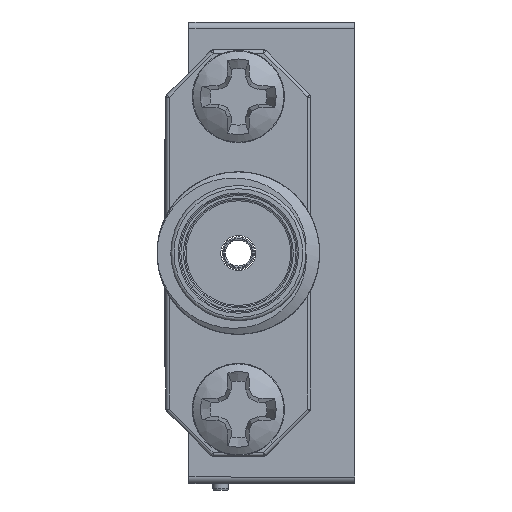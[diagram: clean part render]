
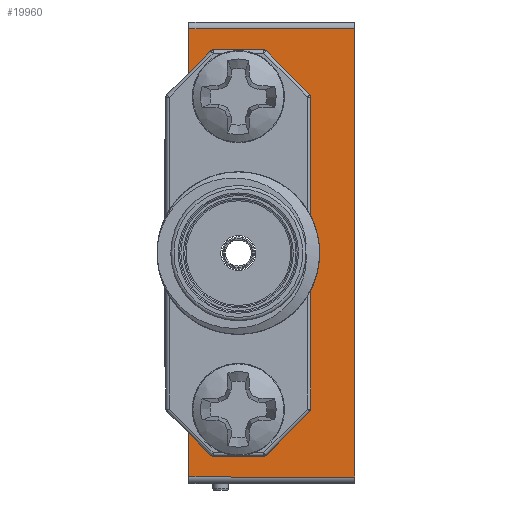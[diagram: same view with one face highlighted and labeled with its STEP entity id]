
A CAD part, left-side view. The second image highlights one B-rep face of the part: STEP entity #19960.
In plain terms, the highlighted planar face has unit normal (-1, 0, 0).
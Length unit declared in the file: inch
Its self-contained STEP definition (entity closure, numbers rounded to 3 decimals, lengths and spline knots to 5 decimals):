
#1995 = DIRECTION ( 'NONE',  ( 0., 0., 1. ) ) ;
#2442 = VERTEX_POINT ( 'NONE', #17266 ) ;
#3398 = CARTESIAN_POINT ( 'NONE',  ( -0.54, 0., -0.345 ) ) ;
#3864 = LINE ( 'NONE', #9950, #10174 ) ;
#4162 = ORIENTED_EDGE ( 'NONE', *, *, #24333, .F. ) ;
#4305 = CARTESIAN_POINT ( 'NONE',  ( -0.54, 0.107, -0.182 ) ) ;
#4555 = VERTEX_POINT ( 'NONE', #29905 ) ;
#5093 = ORIENTED_EDGE ( 'NONE', *, *, #40317, .T. ) ;
#5576 = CARTESIAN_POINT ( 'NONE',  ( -0.54, 0., -0.355 ) ) ;
#5579 = CARTESIAN_POINT ( 'NONE',  ( -0.54, 0.179, -0.241 ) ) ;
#6230 = ORIENTED_EDGE ( 'NONE', *, *, #35286, .T. ) ;
#6318 = VERTEX_POINT ( 'NONE', #29969 ) ;
#6325 = AXIS2_PLACEMENT_3D ( 'NONE', #28909, #16345, #6795 ) ;
#6747 = VERTEX_POINT ( 'NONE', #13571 ) ;
#6795 = DIRECTION ( 'NONE',  ( 0., 0., -1. ) ) ;
#7552 = VECTOR ( 'NONE', #24067, 39.37008 ) ;
#8451 = DIRECTION ( 'NONE',  ( -1., 0., 0. ) ) ;
#8755 = CARTESIAN_POINT ( 'NONE',  ( -0.54, 0.179, -0.1885 ) ) ;
#9507 = FACE_OUTER_BOUND ( 'NONE', #35837, .T. ) ;
#9950 = CARTESIAN_POINT ( 'NONE',  ( -0.54, 0.107, 0.182 ) ) ;
#10174 = VECTOR ( 'NONE', #25782, 39.37008 ) ;
#10954 = DIRECTION ( 'NONE',  ( 0., 0., 1. ) ) ;
#11659 = LINE ( 'NONE', #12075, #14379 ) ;
#11878 = CARTESIAN_POINT ( 'NONE',  ( -0.54, 0.255, 0.182 ) ) ;
#12075 = CARTESIAN_POINT ( 'NONE',  ( -0.54, 0.255, 0.345 ) ) ;
#12218 = LINE ( 'NONE', #37732, #22178 ) ;
#12578 = AXIS2_PLACEMENT_3D ( 'NONE', #5579, #38180, #28533 ) ;
#12599 = ORIENTED_EDGE ( 'NONE', *, *, #40155, .F. ) ;
#12641 = DIRECTION ( 'NONE',  ( 0., -1., 0. ) ) ;
#12876 = VECTOR ( 'NONE', #1995, 39.37008 ) ;
#13495 = DIRECTION ( 'NONE',  ( 0., 1., 0. ) ) ;
#13571 = CARTESIAN_POINT ( 'NONE',  ( -0.54, 0., 0.345 ) ) ;
#14379 = VECTOR ( 'NONE', #34234, 39.37008 ) ;
#15521 = ORIENTED_EDGE ( 'NONE', *, *, #19020, .F. ) ;
#15841 = CARTESIAN_POINT ( 'NONE',  ( -0.54, 0.107, -0.182 ) ) ;
#15902 = EDGE_LOOP ( 'NONE', ( #21140 ) ) ;
#16345 = DIRECTION ( 'NONE',  ( 1., 0., 0. ) ) ;
#17001 = LINE ( 'NONE', #4305, #17562 ) ;
#17266 = CARTESIAN_POINT ( 'NONE',  ( -0.54, 0.255, -0.345 ) ) ;
#17536 = VECTOR ( 'NONE', #25584, 39.37008 ) ;
#17562 = VECTOR ( 'NONE', #13495, 39.37008 ) ;
#19020 = EDGE_CURVE ( 'NONE', #4555, #24905, #24928, .T. ) ;
#19221 = ORIENTED_EDGE ( 'NONE', *, *, #35467, .F. ) ;
#19464 = AXIS2_PLACEMENT_3D ( 'NONE', #24284, #8451, #10954 ) ;
#19574 = EDGE_CURVE ( 'NONE', #6747, #6318, #11659, .T. ) ;
#19960 = ADVANCED_FACE ( 'NONE', ( #35207, #37515, #9507 ), #22202, .F. ) ;
#21140 = ORIENTED_EDGE ( 'NONE', *, *, #28379, .F. ) ;
#22178 = VECTOR ( 'NONE', #12641, 39.37008 ) ;
#22202 = PLANE ( 'NONE',  #6325 ) ;
#24067 = DIRECTION ( 'NONE',  ( 0., 0., 1. ) ) ;
#24139 = LINE ( 'NONE', #24350, #12876 ) ;
#24284 = CARTESIAN_POINT ( 'NONE',  ( -0.54, 0.179, 0.24 ) ) ;
#24333 = EDGE_CURVE ( 'NONE', #28445, #28445, #36193, .T. ) ;
#24350 = CARTESIAN_POINT ( 'NONE',  ( -0.54, 0.255, -0.355 ) ) ;
#24905 = VERTEX_POINT ( 'NONE', #11878 ) ;
#24928 = LINE ( 'NONE', #37733, #39093 ) ;
#25584 = DIRECTION ( 'NONE',  ( 0., 0., 1. ) ) ;
#25782 = DIRECTION ( 'NONE',  ( 0., 0., 1. ) ) ;
#26533 = EDGE_CURVE ( 'NONE', #29344, #37265, #17001, .T. ) ;
#28097 = CARTESIAN_POINT ( 'NONE',  ( -0.54, 0.255, -0.182 ) ) ;
#28379 = EDGE_CURVE ( 'NONE', #39937, #39937, #35274, .T. ) ;
#28445 = VERTEX_POINT ( 'NONE', #41270 ) ;
#28533 = DIRECTION ( 'NONE',  ( 0., 0., 1. ) ) ;
#28909 = CARTESIAN_POINT ( 'NONE',  ( -0.54, 0.255, -0.355 ) ) ;
#29344 = VERTEX_POINT ( 'NONE', #15841 ) ;
#29905 = CARTESIAN_POINT ( 'NONE',  ( -0.54, 0.107, 0.182 ) ) ;
#29969 = CARTESIAN_POINT ( 'NONE',  ( -0.54, 0.255, 0.345 ) ) ;
#30365 = CARTESIAN_POINT ( 'NONE',  ( -0.54, 0.255, -0.355 ) ) ;
#31877 = DIRECTION ( 'NONE',  ( 0., 1., 0. ) ) ;
#32104 = ORIENTED_EDGE ( 'NONE', *, *, #19574, .T. ) ;
#33041 = VERTEX_POINT ( 'NONE', #3398 ) ;
#34234 = DIRECTION ( 'NONE',  ( 0., 1., 0. ) ) ;
#34417 = LINE ( 'NONE', #5576, #17536 ) ;
#34794 = EDGE_LOOP ( 'NONE', ( #4162 ) ) ;
#34799 = ORIENTED_EDGE ( 'NONE', *, *, #38220, .F. ) ;
#35207 = FACE_BOUND ( 'NONE', #34794, .T. ) ;
#35274 = CIRCLE ( 'NONE', #12578, 0.0525 ) ;
#35286 = EDGE_CURVE ( 'NONE', #2442, #33041, #12218, .T. ) ;
#35467 = EDGE_CURVE ( 'NONE', #2442, #37265, #39595, .T. ) ;
#35837 = EDGE_LOOP ( 'NONE', ( #5093, #32104, #12599, #15521, #34799, #41288, #19221, #6230 ) ) ;
#36193 = CIRCLE ( 'NONE', #19464, 0.0525 ) ;
#37265 = VERTEX_POINT ( 'NONE', #28097 ) ;
#37515 = FACE_BOUND ( 'NONE', #15902, .T. ) ;
#37732 = CARTESIAN_POINT ( 'NONE',  ( -0.54, 0.255, -0.345 ) ) ;
#37733 = CARTESIAN_POINT ( 'NONE',  ( -0.54, 0.107, 0.182 ) ) ;
#38180 = DIRECTION ( 'NONE',  ( -1., 0., 0. ) ) ;
#38220 = EDGE_CURVE ( 'NONE', #29344, #4555, #3864, .T. ) ;
#39093 = VECTOR ( 'NONE', #31877, 39.37008 ) ;
#39595 = LINE ( 'NONE', #30365, #7552 ) ;
#39937 = VERTEX_POINT ( 'NONE', #8755 ) ;
#40155 = EDGE_CURVE ( 'NONE', #24905, #6318, #24139, .T. ) ;
#40317 = EDGE_CURVE ( 'NONE', #33041, #6747, #34417, .T. ) ;
#41270 = CARTESIAN_POINT ( 'NONE',  ( -0.54, 0.179, 0.2925 ) ) ;
#41288 = ORIENTED_EDGE ( 'NONE', *, *, #26533, .T. ) ;
